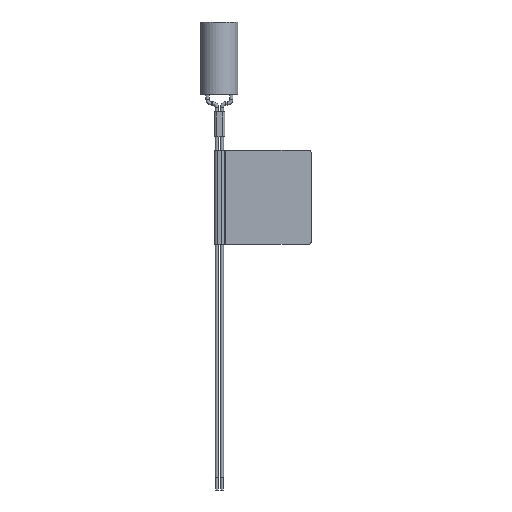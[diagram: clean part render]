
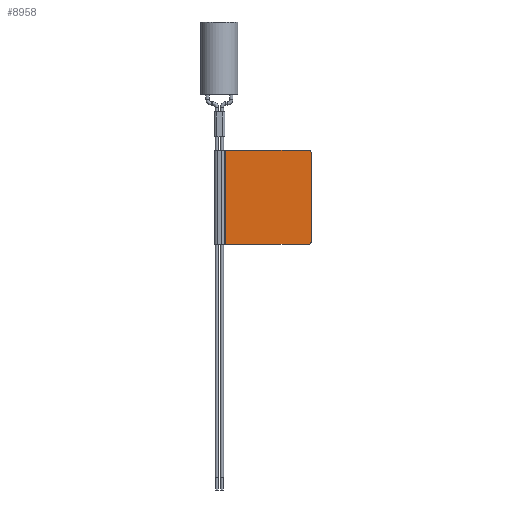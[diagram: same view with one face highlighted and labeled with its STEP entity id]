
A CAD part, front view. The second image highlights one B-rep face of the part: STEP entity #8958.
In plain terms, the highlighted planar face has unit normal (0, -1, 0).
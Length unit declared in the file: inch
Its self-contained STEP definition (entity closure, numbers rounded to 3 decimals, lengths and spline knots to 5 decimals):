
#27 = VECTOR ( 'NONE', #5499, 39.37008 ) ;
#272 = EDGE_CURVE ( 'NONE', #4733, #7759, #7988, .T. ) ;
#644 = ORIENTED_EDGE ( 'NONE', *, *, #692, .T. ) ;
#692 = EDGE_CURVE ( 'NONE', #6222, #2584, #3396, .T. ) ;
#886 = CARTESIAN_POINT ( 'NONE',  ( 0.8019, -0.01302, -1.07957 ) ) ;
#890 = DIRECTION ( 'NONE',  ( 0., 1., 0. ) ) ;
#1587 = VERTEX_POINT ( 'NONE', #2740 ) ;
#1925 = CARTESIAN_POINT ( 'NONE',  ( 0.8319, -0.01302, -1.04957 ) ) ;
#2284 = VECTOR ( 'NONE', #4014, 39.37008 ) ;
#2584 = VERTEX_POINT ( 'NONE', #4182 ) ;
#2594 = EDGE_CURVE ( 'NONE', #2584, #4733, #6787, .T. ) ;
#2644 = EDGE_CURVE ( 'NONE', #8352, #7759, #3448, .T. ) ;
#2690 = ORIENTED_EDGE ( 'NONE', *, *, #5084, .T. ) ;
#2740 = CARTESIAN_POINT ( 'NONE',  ( 0.8019, -0.01302, -1.04957 ) ) ;
#2963 = CARTESIAN_POINT ( 'NONE',  ( 0.8319, -0.01302, -1.04957 ) ) ;
#3105 = DIRECTION ( 'NONE',  ( -1., 0., 0. ) ) ;
#3280 = EDGE_CURVE ( 'NONE', #6222, #1587, #7366, .T. ) ;
#3305 = DIRECTION ( 'NONE',  ( 1., 0., 0. ) ) ;
#3313 = CARTESIAN_POINT ( 'NONE',  ( 0.8319, -0.01302, -1.04957 ) ) ;
#3396 = LINE ( 'NONE', #5420, #27 ) ;
#3448 = LINE ( 'NONE', #1925, #3469 ) ;
#3469 = VECTOR ( 'NONE', #9062, 39.37008 ) ;
#3574 = ORIENTED_EDGE ( 'NONE', *, *, #2644, .F. ) ;
#3911 = CARTESIAN_POINT ( 'NONE',  ( 0.8019, -0.01302, -1.96957 ) ) ;
#4007 = CARTESIAN_POINT ( 'NONE',  ( 0.8019, -0.01302, -1.99957 ) ) ;
#4014 = DIRECTION ( 'NONE',  ( 1., 0., 0. ) ) ;
#4177 = FACE_OUTER_BOUND ( 'NONE', #4798, .T. ) ;
#4182 = CARTESIAN_POINT ( 'NONE',  ( -0.03192, -0.01302, -1.99957 ) ) ;
#4401 = DIRECTION ( 'NONE',  ( 0., -1., 0. ) ) ;
#4426 = DIRECTION ( 'NONE',  ( 0., -1., 0. ) ) ;
#4733 = VERTEX_POINT ( 'NONE', #4007 ) ;
#4798 = EDGE_LOOP ( 'NONE', ( #7388, #4928, #3574, #2690, #8421, #644 ) ) ;
#4928 = ORIENTED_EDGE ( 'NONE', *, *, #272, .T. ) ;
#5084 = EDGE_CURVE ( 'NONE', #8352, #1587, #5462, .T. ) ;
#5166 = CARTESIAN_POINT ( 'NONE',  ( 0.8319, -0.01302, -1.96957 ) ) ;
#5420 = CARTESIAN_POINT ( 'NONE',  ( -0.03192, -0.01302, -1.04957 ) ) ;
#5462 = CIRCLE ( 'NONE', #9148, 0.03 ) ;
#5499 = DIRECTION ( 'NONE',  ( 0., 0., -1. ) ) ;
#6222 = VERTEX_POINT ( 'NONE', #7214 ) ;
#6291 = CARTESIAN_POINT ( 'NONE',  ( 0.8319, -0.01302, -1.99957 ) ) ;
#6538 = DIRECTION ( 'NONE',  ( -1., 0., 0. ) ) ;
#6656 = DIRECTION ( 'NONE',  ( -1., 0., 0. ) ) ;
#6787 = LINE ( 'NONE', #6291, #8444 ) ;
#6914 = CARTESIAN_POINT ( 'NONE',  ( 0.8319, -0.01302, -1.07957 ) ) ;
#7053 = PLANE ( 'NONE',  #8987 ) ;
#7214 = CARTESIAN_POINT ( 'NONE',  ( -0.03192, -0.01302, -1.04957 ) ) ;
#7366 = LINE ( 'NONE', #3313, #2284 ) ;
#7388 = ORIENTED_EDGE ( 'NONE', *, *, #2594, .T. ) ;
#7759 = VERTEX_POINT ( 'NONE', #5166 ) ;
#7988 = CIRCLE ( 'NONE', #8430, 0.03 ) ;
#8352 = VERTEX_POINT ( 'NONE', #6914 ) ;
#8421 = ORIENTED_EDGE ( 'NONE', *, *, #3280, .F. ) ;
#8430 = AXIS2_PLACEMENT_3D ( 'NONE', #3911, #4426, #6656 ) ;
#8444 = VECTOR ( 'NONE', #3305, 39.37008 ) ;
#8958 = ADVANCED_FACE ( 'NONE', ( #4177 ), #7053, .F. ) ;
#8987 = AXIS2_PLACEMENT_3D ( 'NONE', #2963, #890, #3105 ) ;
#9062 = DIRECTION ( 'NONE',  ( 0., 0., -1. ) ) ;
#9148 = AXIS2_PLACEMENT_3D ( 'NONE', #886, #4401, #6538 ) ;
